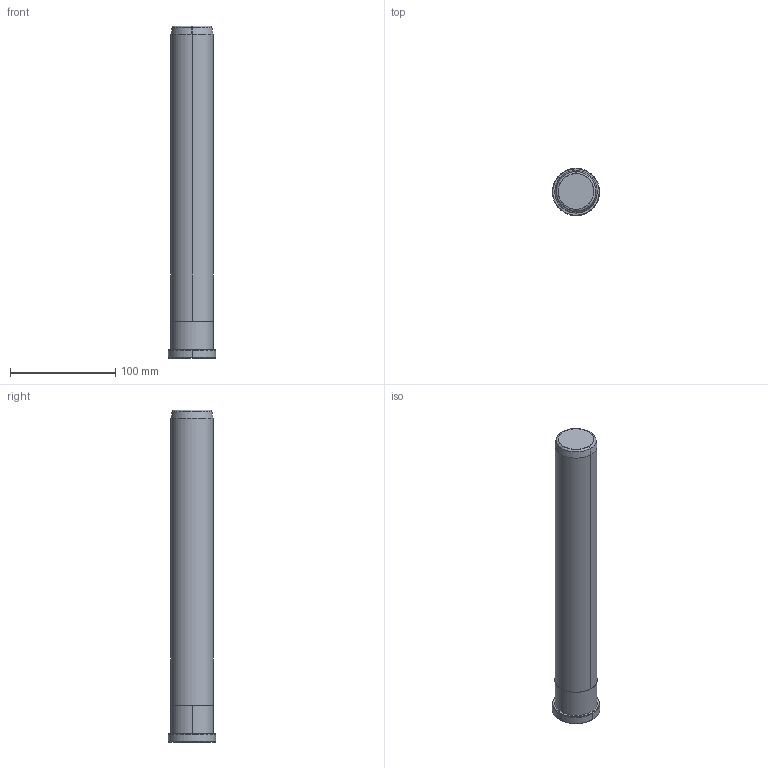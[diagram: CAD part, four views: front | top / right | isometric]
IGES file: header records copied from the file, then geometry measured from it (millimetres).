
Start section: START RECORD GO HERE.
Global section: file name: B80840315.igs; native system: DASSAULT SYSTEMES CATIA V5 R20 - www.3ds.com; preprocessor: CATIA Version 5 Release 20 ; author: Utente; organization: NB04-ASUS; date: 20200419.164500; units: millimetre
Bounding box: 45 x 45 x 315 mm (x, y, z)
Surface area: 42550.1 mm2 (no closed solid volume)
Topology: 0 solids, 0 shells, 20 faces, 80 edges, 80 vertices
Faces by surface type: revolution 16, plane 4
